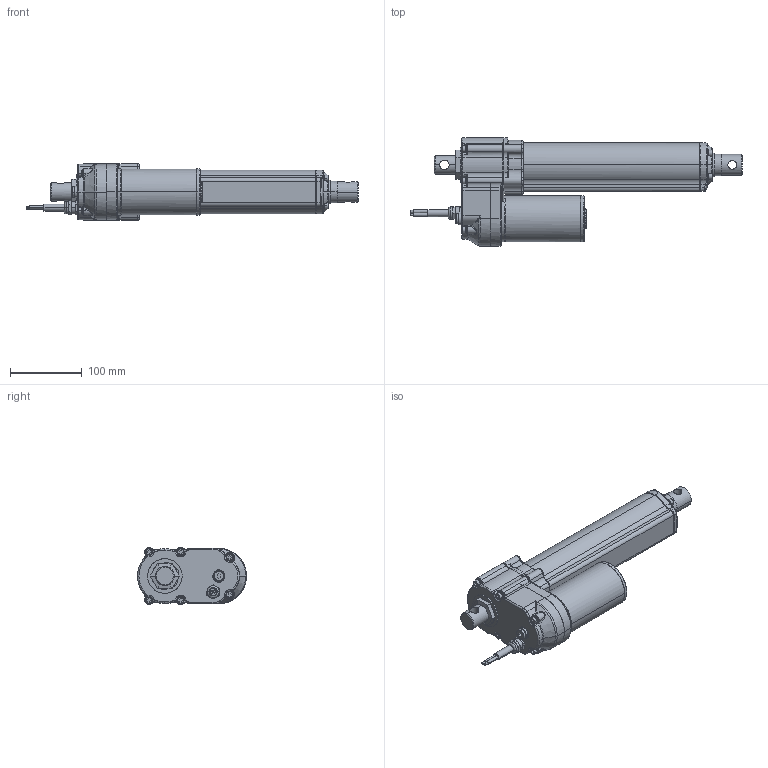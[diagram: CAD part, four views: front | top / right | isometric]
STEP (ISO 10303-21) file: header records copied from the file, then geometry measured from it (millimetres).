
FILE_DESCRIPTION(('STEP AP203'),'1');
FILE_NAME('LINACT-33P-200MM.stp','2025-11-20T12:26:24',('Linear Actuators S.A.'),('Linear Actuators South Africa (Pty) Ltd'),'Spatial InterOp 3D',' ',' ');
FILE_SCHEMA(('CONFIG_CONTROL_DESIGN'));
Length unit declared in the file: millimetre
Products named in the file (1): 1
Bounding box: 461.27 x 151.4 x 79 mm (x, y, z)
Volume: 1990986.3 mm3; surface area: 142707.3 mm2
Topology: 1 solids, 1 shells, 940 faces, 2391 edges, 1467 vertices
Faces by surface type: torus 294, plane 239, cylinder 234, bspline 105, cone 66, sphere 2
Entity records: 41074 total; most frequent: CARTESIAN_POINT 19629, ORIENTED_EDGE 4728, DIRECTION 4260, EDGE_CURVE 2364, AXIS2_PLACEMENT_3D 1786, VERTEX_POINT 1467, EDGE_LOOP 985, CIRCLE 942
